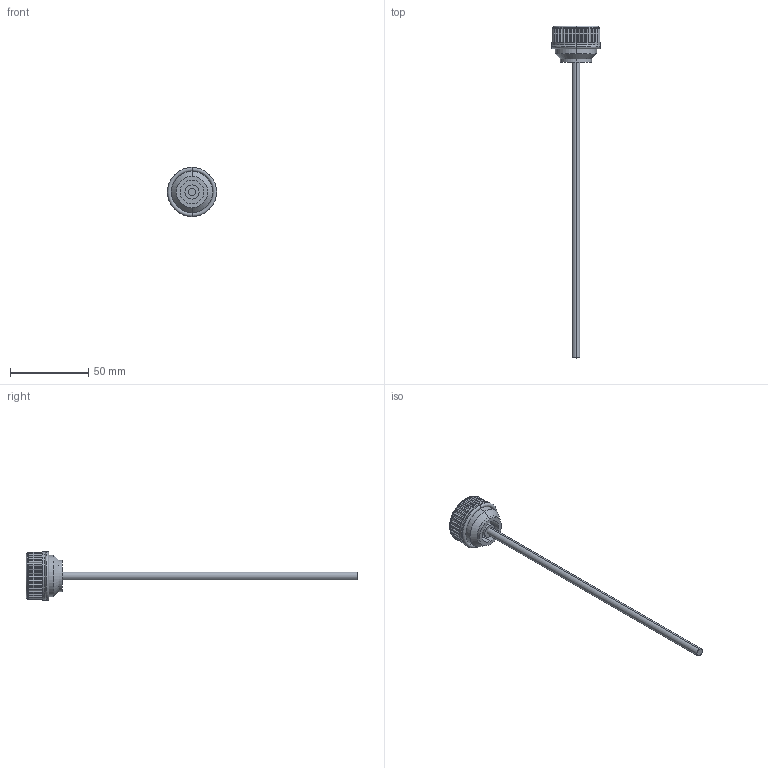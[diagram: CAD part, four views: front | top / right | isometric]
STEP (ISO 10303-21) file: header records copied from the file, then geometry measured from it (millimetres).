
FILE_DESCRIPTION (( 'STEP AP203' ), '1' );
FILE_NAME ('Wiberger-wn9132_3-4tum.step', '2012-09-21T10:34:10', ( 'Magnus' ), ( 'Wiberger' ), 'SwSTEP 2.0', 'SolidWorks 2011', '' );
FILE_SCHEMA (( 'CONFIG_CONTROL_DESIGN' ));
Length unit declared in the file: millimetre
Products named in the file (1): Wiberger-wn9132_3-4tum
Bounding box: 31.44 x 212 x 31.44 mm (x, y, z)
Volume: 16090 mm3; surface area: 8609.8 mm2
Topology: 3 solids, 3 shells, 207 faces, 618 edges, 316 vertices
Faces by surface type: cylinder 120, torus 76, plane 9, cone 2
Entity records: 6237 total; most frequent: CARTESIAN_POINT 1388, DIRECTION 1112, ORIENTED_EDGE 958, AXIS2_PLACEMENT_3D 495, EDGE_CURVE 479, CIRCLE 287, VERTEX_POINT 281, EDGE_LOOP 212
